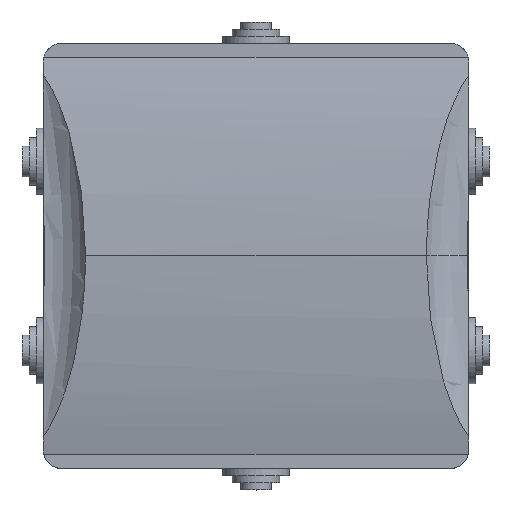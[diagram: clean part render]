
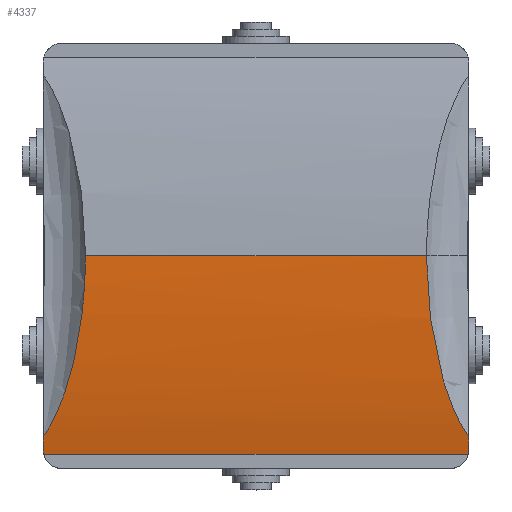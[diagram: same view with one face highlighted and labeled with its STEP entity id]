
A CAD part, top view. The second image highlights one B-rep face of the part: STEP entity #4337.
In plain terms, the highlighted cylindrical face has radius 200 mm (diameter 400 mm), a partial arc.
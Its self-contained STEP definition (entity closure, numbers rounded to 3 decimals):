
#59 = FACE_OUTER_BOUND ( 'NONE', #4938, .T. ) ;
#62 = ORIENTED_EDGE ( 'NONE', *, *, #2210, .F. ) ;
#145 = CARTESIAN_POINT ( 'NONE',  ( 40.878, -30.182, 9.323 ) ) ;
#183 = CARTESIAN_POINT ( 'NONE',  ( 41.804, -32.48, 8.929 ) ) ;
#191 = EDGE_CURVE ( 'NONE', #6110, #6287, #3181, .T. ) ;
#332 = CARTESIAN_POINT ( 'NONE',  ( -44.511, -37.59, 7.954 ) ) ;
#370 = CARTESIAN_POINT ( 'NONE',  ( -40.064, -27.847, 9.695 ) ) ;
#393 = CARTESIAN_POINT ( 'NONE',  ( -44.958, -41.672, 7.075 ) ) ;
#511 = CARTESIAN_POINT ( 'NONE',  ( 45., -41.339, 7.15 ) ) ;
#567 = CYLINDRICAL_SURFACE ( 'NONE', #5018, 200. ) ;
#726 = CARTESIAN_POINT ( 'NONE',  ( 43.245, -35.464, 8.376 ) ) ;
#923 = CARTESIAN_POINT ( 'NONE',  ( -36.391, -8.352, 11.715 ) ) ;
#962 = CARTESIAN_POINT ( 'NONE',  ( -39.571, -26.258, 9.932 ) ) ;
#983 = VERTEX_POINT ( 'NONE', #7164 ) ;
#1075 = CARTESIAN_POINT ( 'NONE',  ( -37.335, -16.589, 11.119 ) ) ;
#1116 = ORIENTED_EDGE ( 'NONE', *, *, #2660, .T. ) ;
#1318 = CARTESIAN_POINT ( 'NONE',  ( 42.14, -33.239, 8.793 ) ) ;
#1600 = CARTESIAN_POINT ( 'NONE',  ( -41.163, -30.978, 9.194 ) ) ;
#1636 = CARTESIAN_POINT ( 'NONE',  ( -41.786, -32.506, 8.929 ) ) ;
#1713 = CARTESIAN_POINT ( 'NONE',  ( -45., -41., 7.225 ) ) ;
#1718 = DIRECTION ( 'NONE',  ( 1., 0., 0. ) ) ;
#1738 = CARTESIAN_POINT ( 'NONE',  ( 45., -38.269, 7.813 ) ) ;
#1752 = CARTESIAN_POINT ( 'NONE',  ( 41.033, 2.441, -188. ) ) ;
#1762 = CARTESIAN_POINT ( 'NONE',  ( 36.066, -3.341, 11.944 ) ) ;
#1849 = CARTESIAN_POINT ( 'NONE',  ( 39.562, -26.28, 9.934 ) ) ;
#1862 = CARTESIAN_POINT ( 'NONE',  ( 0., 0., 11.985 ) ) ;
#1970 = EDGE_CURVE ( 'NONE', #5363, #4524, #7275, .T. ) ;
#2033 = CARTESIAN_POINT ( 'NONE',  ( -36.042, 0., 11.985 ) ) ;
#2189 = CARTESIAN_POINT ( 'NONE',  ( -43.242, -35.459, 8.377 ) ) ;
#2210 = EDGE_CURVE ( 'NONE', #6287, #7180, #5013, .T. ) ;
#2231 = CARTESIAN_POINT ( 'NONE',  ( -44.067, -36.889, 8.096 ) ) ;
#2249 = CARTESIAN_POINT ( 'NONE',  ( 45., -41., 7.225 ) ) ;
#2252 = CARTESIAN_POINT ( 'NONE',  ( -45., -41.339, 7.15 ) ) ;
#2338 = DIRECTION ( 'NONE',  ( -1., 0., 0. ) ) ;
#2377 = DIRECTION ( 'NONE',  ( 0., 1., 0. ) ) ;
#2424 = DIRECTION ( 'NONE',  ( 0., -1., 0. ) ) ;
#2433 = CARTESIAN_POINT ( 'NONE',  ( 37.665, -18.227, 10.936 ) ) ;
#2550 = CARTESIAN_POINT ( 'NONE',  ( 41.173, -30.952, 9.194 ) ) ;
#2590 = CARTESIAN_POINT ( 'NONE',  ( 42.861, -34.731, 8.517 ) ) ;
#2660 = EDGE_CURVE ( 'NONE', #5716, #7180, #6508, .T. ) ;
#2783 = CARTESIAN_POINT ( 'NONE',  ( -36.042, 0., 11.985 ) ) ;
#2848 = EDGE_CURVE ( 'NONE', #5363, #6110, #7385, .T. ) ;
#2875 = DIRECTION ( 'NONE',  ( 1., 0., 0. ) ) ;
#2984 = EDGE_CURVE ( 'NONE', #983, #4524, #3310, .T. ) ;
#3028 = CARTESIAN_POINT ( 'NONE',  ( 37.382, -16.58, 11.1 ) ) ;
#3054 = DIRECTION ( 'NONE',  ( -1., 0., 0. ) ) ;
#3181 = CIRCLE ( 'NONE', #4704, 200. ) ;
#3183 = EDGE_CURVE ( 'NONE', #6802, #983, #6896, .T. ) ;
#3184 = CARTESIAN_POINT ( 'NONE',  ( 44.071, -36.896, 8.095 ) ) ;
#3310 = B_SPLINE_CURVE_WITH_KNOTS ( 'NONE', 3,
 ( #6384, #332, #2231, #2189, #5787, #1636, #1600, #4088, #370, #962, #4604, #6343, #7540, #1075, #3379, #923, #3973, #6939, #3459, #2783 ),
 .UNSPECIFIED., .F., .F.,
 ( 4, 2, 2, 2, 2, 2, 2, 2, 2, 4 ),
 ( 0., 0.003, 0.005, 0.01, 0.013, 0.015, 0.02, 0.03, 0.035, 0.04 ),
 .UNSPECIFIED. ) ;
#3379 = CARTESIAN_POINT ( 'NONE',  ( -36.867, -13.312, 11.406 ) ) ;
#3459 = CARTESIAN_POINT ( 'NONE',  ( -36.054, -1.676, 11.965 ) ) ;
#3545 = ORIENTED_EDGE ( 'NONE', *, *, #5022, .F. ) ;
#3628 = CARTESIAN_POINT ( 'NONE',  ( 36.23, -6.668, 11.82 ) ) ;
#3661 = ORIENTED_EDGE ( 'NONE', *, *, #2984, .F. ) ;
#3722 = CARTESIAN_POINT ( 'NONE',  ( -44.873, -42., 7. ) ) ;
#3973 = CARTESIAN_POINT ( 'NONE',  ( -36.27, -6.691, 11.798 ) ) ;
#3991 = CARTESIAN_POINT ( 'NONE',  ( 44.958, -41.672, 7.075 ) ) ;
#3997 = AXIS2_PLACEMENT_3D ( 'NONE', #6014, #3054, #2377 ) ;
#4036 = CARTESIAN_POINT ( 'NONE',  ( 45., -41., 7.225 ) ) ;
#4088 = CARTESIAN_POINT ( 'NONE',  ( -40.326, -28.637, 9.572 ) ) ;
#4134 = DIRECTION ( 'NONE',  ( 0., -1., 0. ) ) ;
#4255 = CARTESIAN_POINT ( 'NONE',  ( 40.047, -27.854, 9.698 ) ) ;
#4327 = B_SPLINE_CURVE_WITH_KNOTS ( 'NONE', 3,
 ( #3722, #393, #2252, #5696 ),
 .UNSPECIFIED., .F., .F.,
 ( 4, 4 ),
 ( 0., 0.001 ),
 .UNSPECIFIED. ) ;
#4337 = ADVANCED_FACE ( 'NONE', ( #59 ), #567, .T. ) ;
#4451 = CARTESIAN_POINT ( 'NONE',  ( 45., -38.269, 7.813 ) ) ;
#4476 = ORIENTED_EDGE ( 'NONE', *, *, #191, .F. ) ;
#4524 = VERTEX_POINT ( 'NONE', #2033 ) ;
#4604 = CARTESIAN_POINT ( 'NONE',  ( -39.34, -25.46, 10.046 ) ) ;
#4704 = AXIS2_PLACEMENT_3D ( 'NONE', #5910, #1718, #4134 ) ;
#4828 = DIRECTION ( 'NONE',  ( -1., 0., 0. ) ) ;
#4850 = CARTESIAN_POINT ( 'NONE',  ( 38.325, -21.482, 10.571 ) ) ;
#4938 = EDGE_LOOP ( 'NONE', ( #3545, #1116, #62, #4476, #6622, #5745, #3661, #7749 ) ) ;
#4963 = CARTESIAN_POINT ( 'NONE',  ( 44.514, -37.595, 7.953 ) ) ;
#5013 = B_SPLINE_CURVE_WITH_KNOTS ( 'NONE', 3,
 ( #2249, #511, #3991, #7602 ),
 .UNSPECIFIED., .F., .F.,
 ( 4, 4 ),
 ( 0., 0.001 ),
 .UNSPECIFIED. ) ;
#5018 = AXIS2_PLACEMENT_3D ( 'NONE', #1752, #2338, #2424 ) ;
#5022 = EDGE_CURVE ( 'NONE', #5716, #6802, #4327, .T. ) ;
#5363 = VERTEX_POINT ( 'NONE', #7382 ) ;
#5696 = CARTESIAN_POINT ( 'NONE',  ( -45., -41., 7.225 ) ) ;
#5716 = VERTEX_POINT ( 'NONE', #6736 ) ;
#5745 = ORIENTED_EDGE ( 'NONE', *, *, #1970, .T. ) ;
#5750 = VECTOR ( 'NONE', #2875, 1000. ) ;
#5787 = CARTESIAN_POINT ( 'NONE',  ( -42.861, -34.73, 8.517 ) ) ;
#5860 = CARTESIAN_POINT ( 'NONE',  ( 44.873, -42., 7. ) ) ;
#5866 = VECTOR ( 'NONE', #4828, 1000. ) ;
#5910 = CARTESIAN_POINT ( 'NONE',  ( 45., 2.441, -188. ) ) ;
#6014 = CARTESIAN_POINT ( 'NONE',  ( -45., 2.441, -188. ) ) ;
#6110 = VERTEX_POINT ( 'NONE', #1738 ) ;
#6287 = VERTEX_POINT ( 'NONE', #4036 ) ;
#6343 = CARTESIAN_POINT ( 'NONE',  ( -38.692, -23.06, 10.374 ) ) ;
#6384 = CARTESIAN_POINT ( 'NONE',  ( -45., -38.269, 7.813 ) ) ;
#6508 = LINE ( 'NONE', #7743, #5750 ) ;
#6583 = CARTESIAN_POINT ( 'NONE',  ( 36.903, -13.286, 11.388 ) ) ;
#6622 = ORIENTED_EDGE ( 'NONE', *, *, #2848, .F. ) ;
#6624 = CARTESIAN_POINT ( 'NONE',  ( 36.042, 0., 11.985 ) ) ;
#6736 = CARTESIAN_POINT ( 'NONE',  ( -44.873, -42., 7. ) ) ;
#6802 = VERTEX_POINT ( 'NONE', #1713 ) ;
#6896 = CIRCLE ( 'NONE', #3997, 200. ) ;
#6939 = CARTESIAN_POINT ( 'NONE',  ( -36.102, -3.354, 11.923 ) ) ;
#7164 = CARTESIAN_POINT ( 'NONE',  ( -45., -38.269, 7.813 ) ) ;
#7180 = VERTEX_POINT ( 'NONE', #5860 ) ;
#7261 = CARTESIAN_POINT ( 'NONE',  ( 38.701, -23.094, 10.37 ) ) ;
#7275 = LINE ( 'NONE', #1862, #5866 ) ;
#7299 = CARTESIAN_POINT ( 'NONE',  ( 36.705, -11.634, 11.511 ) ) ;
#7382 = CARTESIAN_POINT ( 'NONE',  ( 36.042, 0., 11.985 ) ) ;
#7385 = B_SPLINE_CURVE_WITH_KNOTS ( 'NONE', 3,
 ( #6624, #1762, #3628, #7299, #6583, #3028, #2433, #4850, #7261, #1849, #4255, #145, #2550, #183, #1318, #2590, #726, #3184, #4963, #4451 ),
 .UNSPECIFIED., .F., .F.,
 ( 4, 2, 2, 2, 2, 2, 2, 2, 2, 4 ),
 ( 0.002, 0.012, 0.017, 0.022, 0.027, 0.032, 0.035, 0.037, 0.04, 0.042 ),
 .UNSPECIFIED. ) ;
#7540 = CARTESIAN_POINT ( 'NONE',  ( -38.317, -21.449, 10.575 ) ) ;
#7602 = CARTESIAN_POINT ( 'NONE',  ( 44.873, -42., 7. ) ) ;
#7743 = CARTESIAN_POINT ( 'NONE',  ( 41.033, -42., 7. ) ) ;
#7749 = ORIENTED_EDGE ( 'NONE', *, *, #3183, .F. ) ;
